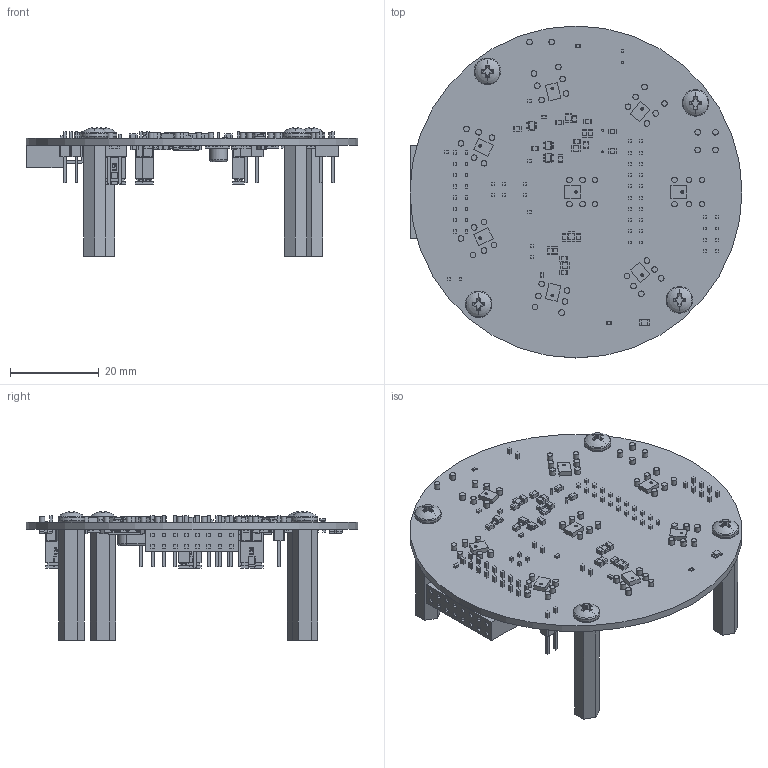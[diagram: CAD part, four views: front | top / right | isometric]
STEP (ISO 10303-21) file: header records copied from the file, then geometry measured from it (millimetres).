
FILE_DESCRIPTION(('Open CASCADE Model'),'2;1');
FILE_NAME('Open CASCADE Shape Model','2017-04-17T17:09:09',('Author'),( 'Open CASCADE'),'Open CASCADE STEP processor 6.8','Open CASCADE 6.8' ,'Unknown');
FILE_SCHEMA(('AUTOMOTIVE_DESIGN { 1 0 10303 214 1 1 1 1 }'));
Length unit declared in the file: millimetre
Products named in the file (310): PCB; Board; SH4; SNT-100-XX-X; c-37-x; snt-100-xx; SH3; SH2; SH1; MIC8; -1630056848; Extruded; -1630056984; MIC7; -1630056576; -1630056712; MIC6; -1630056304; -1630056440; MIC5; -1630056032; -1630056168; MIC4; -1630055760; -1630055896; MIC3; -1630055488; -1630055624; MIC2; -1630055216; -1630055352; MIC1; TP42; -1509657088; Cylinder; TP38; TP41; TP37; TP40; TP36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
Assembly tree (726 placements, depth 5):
  PCB
    Board
    SH4
      SNT-100-XX-X
        c-37-x
        snt-100-xx
    SH3
      SNT-100-XX-X
        c-37-x
        snt-100-xx
    SH2
      SNT-100-XX-X
        c-37-x
        snt-100-xx
    SH1
      SNT-100-XX-X
        c-37-x
        snt-100-xx
    MIC8
      -1630056848
        Extruded
      -1630056984
        Extruded
    MIC7
      -1630056576
        Extruded
      -1630056712
        Extruded
    MIC6
      -1630056304
        Extruded
      -1630056440
        Extruded
    MIC5
      -1630056032
        Extruded
      -1630056168
        Extruded
    MIC4
      -1630055760
        Extruded
      -1630055896
        Extruded
    MIC3
      -1630055488
        Extruded
      -1630055624
        Extruded
    MIC2
      -1630055216
        Extruded
      -1630055352
        Extruded
    MIC1
      -1630056848
        Extruded
      -1630056984
        Extruded
    TP42
      -1509657088
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Bounding box: 75 x 75 x 28.97 mm (x, y, z)
Volume: 11209.3 mm3; surface area: 19762 mm2
Topology: 509 solids, 509 shells, 5860 faces, 13975 edges, 9172 vertices
Faces by surface type: plane 5043, cylinder 729, cone 38, sphere 20, torus 18, bspline 12
Full cylindrical faces by diameter (mm): 0.43 x2, 1.27 x54, 3 x4, 75 x1
Entity records: 147559 total; most frequent: CARTESIAN_POINT 49631, DIRECTION 16783, LINE 10968, VECTOR 10968, ORIENTED_EDGE 8728, PCURVE 8728, DEFINITIONAL_REPRESENTATION 8728, EDGE_CURVE 4364
